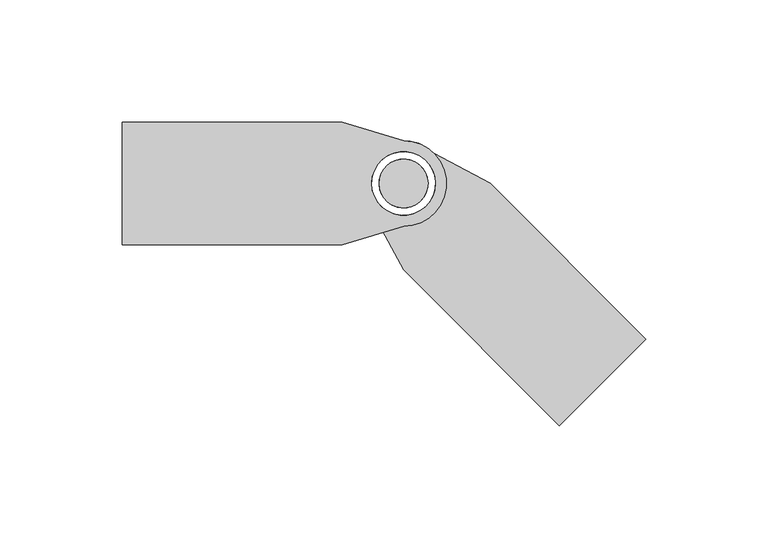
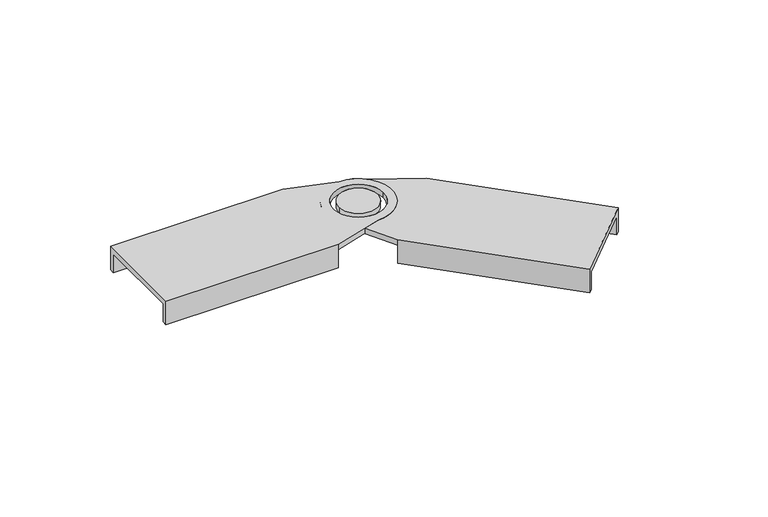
"""IFC4 building model written with IfcOpenShell, lengths in millimetres: cable carrier fitting geometry, BAKS_LD_BEND_Articulated connector_LG : LGT_H45."""

from ifc_helpers import new_model, si_unit, frame, origin, place, context, project, spatial, polyline, circle_curve, source, transform, mapped, element, save
from ifc_brep_helpers import plane_surface, cylinder_surface, revolved_surface, advanced_brep


def cable_carrier_fitting_b11fac2c(model_context):
    return source(origin(), model_context, "Body", "AdvancedBrep", [
        advanced_brep(
        [(-115.0, -25.0, 3.0), (-25.0, -25.0, 3.0), (0.0, -17.5, 3.0), (0.0, 17.5, 3.0), (-25.0, 25.0, 3.0), (-115.0, 25.0, 3.0), (13.0, 0.0, 3.0), (-13.0, 0.0, 3.0), (-25.0, 25.0, 0.0), (0.0, 17.5, 0.0), (0.0, -17.5, 0.0), (-25.0, -25.0, 0.0), (-25.0, -22.5, 0.0), (-115.0, -22.5, 0.0), (-115.0, 22.5, 0.0), (-25.0, 22.5, 0.0), (-13.0, 0.0, 0.0), (13.0, 0.0, 0.0), (-115.0, -25.0, -10.0), (-25.0, -25.0, -10.0), (-25.0, 25.0, -10.0), (-115.0, 25.0, -10.0), (-115.0, 22.5, -10.0), (-115.0, -22.5, -10.0), (-25.0, 22.5, -10.0), (-25.0, -22.5, -10.0)],
        [
            (0, 1),
            (1, 2),
            (2, 3, circle_curve(frame((0.0, 0.0, 3.0), z_axis=(0.0, 0.0, 1.0), x_axis=(-1.0, 0.0, 0.0)), 17.5)),
            (3, 4),
            (4, 5),
            (5, 0),
            (6, 7, circle_curve(frame((0.0, 0.0, 3.0), z_axis=(0.0, 0.0, -1.0), x_axis=(-1.0, 0.0, 0.0)), 13.0)),
            (7, 6, circle_curve(frame((0.0, 0.0, 3.0), z_axis=(0.0, 0.0, -1.0), x_axis=(-1.0, 0.0, 0.0)), 13.0)),
            (8, 9),
            (9, 10, circle_curve(frame((0.0, 0.0, 0.0), z_axis=(0.0, 0.0, -1.0), x_axis=(-1.0, 0.0, 0.0)), 17.5)),
            (10, 11),
            (11, 12),
            (12, 13),
            (13, 14),
            (14, 15),
            (15, 8),
            (16, 17, circle_curve(frame((0.0, 0.0, 0.0), z_axis=(0.0, 0.0, 1.0), x_axis=(-1.0, 0.0, 0.0)), 13.0)),
            (17, 16, circle_curve(frame((0.0, 0.0, 0.0), z_axis=(0.0, 0.0, 1.0), x_axis=(-1.0, 0.0, 0.0)), 13.0)),
            (0, 18),
            (18, 19),
            (19, 11),
            (11, 1),
            (4, 8),
            (8, 20),
            (20, 21),
            (21, 5),
            (21, 22),
            (22, 14),
            (13, 23),
            (23, 18),
            (6, 17),
            (16, 7),
            (10, 2),
            (9, 3),
            (20, 24),
            (24, 22),
            (24, 15),
            (23, 25),
            (25, 19),
            (25, 12),
        ],
        [
            plane_surface(frame((-25.0, -25.0, 3.0), z_axis=(0.0, 0.0, 1.0), x_axis=(1.0, 0.0, 0.0))),
            plane_surface(frame((-25.0, -25.0, 0.0), z_axis=(0.0, 0.0, -1.0), x_axis=(-1.0, 0.0, 0.0))),
            plane_surface(frame((-115.0, -25.0, 3.0), z_axis=(0.0, -1.0, 0.0), x_axis=(0.0, 0.0, -1.0))),
            plane_surface(frame((-25.0, 25.0, 3.0), z_axis=(0.0, 1.0, 0.0), x_axis=(0.0, 0.0, -1.0))),
            plane_surface(frame((-115.0, 25.0, 3.0), z_axis=(-1.0, 0.0, 0.0), x_axis=(0.0, 0.0, -1.0))),
            revolved_surface(polyline([(-13.0, 0.0, 3.0), (-13.0, 0.0, 0.0)]), (0.0, 0.0, 0.0), (0.0, 0.0, 1.0)),
            plane_surface(frame((-25.0, -25.0, 3.0), z_axis=(0.28734788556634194, -0.9578262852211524, 0.0), x_axis=(0.0, 0.0, -1.0))),
            cylinder_surface(frame((0.0, 0.0, 0.0), z_axis=(0.0, 0.0, 1.0), x_axis=(-1.0, 0.0, 0.0)), 17.5),
            plane_surface(frame((0.0, 17.5, 3.0), z_axis=(0.2873478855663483, 0.9578262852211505, 0.0), x_axis=(0.0, 0.0, -1.0))),
            plane_surface(frame((-25.0, 22.5, -10.0), z_axis=(0.0, 0.0, -1.0), x_axis=(-1.0, 0.0, 0.0))),
            plane_surface(frame((-115.0, 22.5, 0.0), z_axis=(0.0, -1.0, 0.0), x_axis=(0.0, 0.0, -1.0))),
            plane_surface(frame((-25.0, 22.5, 0.0), z_axis=(1.0, 0.0, 0.0), x_axis=(0.0, 0.0, -1.0))),
            plane_surface(frame((-25.0, -25.0, -10.0), z_axis=(0.0, 0.0, -1.0), x_axis=(-1.0, 0.0, 0.0))),
            plane_surface(frame((-25.0, -25.0, 0.0), z_axis=(1.0, 0.0, 0.0), x_axis=(0.0, 0.0, -1.0))),
            plane_surface(frame((-25.0, -22.5, 0.0), z_axis=(0.0, 1.0, 0.0), x_axis=(0.0, 0.0, -1.0))),
        ],
        [
            (0, [[1, 2, 3, 4, 5, 6], [7, 8]]),
            (1, [[9, 10, 11, 12, 13, 14, 15, 16], [17, 18]]),
            (2, [[-1, 19, 20, 21, 22]]),
            (3, [[-5, 23, 24, 25, 26]]),
            (4, [[-19, -6, -26, 27, 28, -14, 29, 30]]),
            (5, [[31, -17, 32, -7]]),
            (5, [[-31, -8, -32, -18]]),
            (6, [[-2, -22, -11, 33]]),
            (7, [[-3, -33, -10, 34]]),
            (8, [[-4, -34, -9, -23]]),
            (9, [[-27, -25, 35, 36]]),
            (10, [[-36, 37, -15, -28]]),
            (11, [[-35, -24, -16, -37]]),
            (12, [[-30, 38, 39, -20]]),
            (13, [[-39, 40, -12, -21]]),
            (14, [[-38, -29, -13, -40]]),
        ],
    ),
        advanced_brep(
        [(10.0, 0.0, 3.0), (-10.0, 0.0, 3.0), (-10.0, 0.0, 0.0), (10.0, 0.0, 0.0)],
        [
            (0, 1, circle_curve(frame((0.0, 0.0, 3.0), z_axis=(0.0, 0.0, 1.0), x_axis=(-1.0, 0.0, 0.0)), 10.0)),
            (1, 0, circle_curve(frame((0.0, 0.0, 3.0), z_axis=(0.0, 0.0, 1.0), x_axis=(-1.0, 0.0, 0.0)), 10.0)),
            (2, 3, circle_curve(frame((0.0, 0.0, 0.0), z_axis=(0.0, 0.0, -1.0), x_axis=(-1.0, 0.0, 0.0)), 10.0)),
            (3, 2, circle_curve(frame((0.0, 0.0, 0.0), z_axis=(0.0, 0.0, -1.0), x_axis=(-1.0, 0.0, 0.0)), 10.0)),
            (0, 3),
            (2, 1),
        ],
        [
            plane_surface(frame((-25.0, -25.0, 3.0), z_axis=(0.0, 0.0, 1.0), x_axis=(1.0, 0.0, 0.0))),
            plane_surface(frame((-25.0, -25.0, 0.0), z_axis=(0.0, 0.0, -1.0), x_axis=(-1.0, 0.0, 0.0))),
            cylinder_surface(frame((0.0, 0.0, 0.0), z_axis=(0.0, 0.0, -1.0), x_axis=(-1.0, 0.0, 0.0)), 10.0),
        ],
        [
            (0, [[1, 2]]),
            (1, [[3, 4]]),
            (2, [[5, -3, 6, -1]]),
            (2, [[-5, -2, -6, -4]]),
        ],
    ),
        advanced_brep(
        [(63.6396103, -98.9949494, 3.0), (98.9949494, -63.6396103, 3.0), (35.3553391, 0.0, 3.0), (12.3743687, 12.3743687, 3.0), (-12.3743687, -12.3743687, 3.0), (0.0, -35.3553391, 3.0), (-9.1923882, 9.1923882, 3.0), (9.1923882, -9.1923882, 3.0), (35.3553391, 0.0, 0.0), (33.5875721, -1.767767, 0.0), (97.2271824, -65.4073773, 0.0), (65.4073773, -97.2271824, 0.0), (1.767767, -33.5875721, 0.0), (0.0, -35.3553391, 0.0), (-12.3743687, -12.3743687, 0.0), (12.3743687, 12.3743687, 0.0), (9.1923882, -9.1923882, 0.0), (-9.1923882, 9.1923882, 0.0), (0.0, -35.3553391, -10.0), (63.6396103, -98.9949494, -10.0), (98.9949494, -63.6396103, -10.0), (35.3553391, 0.0, -10.0), (65.4073773, -97.2271824, -10.0), (97.2271824, -65.4073773, -10.0), (33.5875721, -1.767767, -10.0), (1.767767, -33.5875721, -10.0)],
        [
            (0, 1),
            (1, 2),
            (2, 3),
            (3, 4, circle_curve(frame((0.0, 0.0, 3.0), z_axis=(0.0, 0.0, 1.0), x_axis=(0.7071067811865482, -0.7071067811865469, 0.0)), 17.5)),
            (4, 5),
            (5, 0),
            (6, 7, circle_curve(frame((0.0, 0.0, 3.0), z_axis=(0.0, 0.0, -1.0), x_axis=(0.7071067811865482, -0.7071067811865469, 0.0)), 13.0)),
            (7, 6, circle_curve(frame((0.0, 0.0, 3.0), z_axis=(0.0, 0.0, -1.0), x_axis=(0.7071067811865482, -0.7071067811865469, 0.0)), 13.0)),
            (8, 9),
            (9, 10),
            (10, 11),
            (11, 12),
            (12, 13),
            (13, 14),
            (14, 15, circle_curve(frame((0.0, 0.0, 0.0), z_axis=(0.0, 0.0, -1.0), x_axis=(0.7071067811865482, -0.7071067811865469, 0.0)), 17.5)),
            (15, 8),
            (16, 17, circle_curve(frame((0.0, 0.0, 0.0), z_axis=(0.0, 0.0, 1.0), x_axis=(0.7071067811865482, -0.7071067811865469, 0.0)), 13.0)),
            (17, 16, circle_curve(frame((0.0, 0.0, 0.0), z_axis=(0.0, 0.0, 1.0), x_axis=(0.7071067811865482, -0.7071067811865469, 0.0)), 13.0)),
            (5, 13),
            (13, 18),
            (18, 19),
            (19, 0),
            (1, 20),
            (20, 21),
            (21, 8),
            (8, 2),
            (19, 22),
            (22, 11),
            (10, 23),
            (23, 20),
            (7, 16),
            (17, 6),
            (4, 14),
            (3, 15),
            (23, 24),
            (24, 21),
            (9, 24),
            (18, 25),
            (25, 22),
            (12, 25),
        ],
        [
            plane_surface(frame((0.0, -35.3553391, 3.0), z_axis=(0.0, 0.0, 1.0), x_axis=(-0.7071067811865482, 0.7071067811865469, 0.0))),
            plane_surface(frame((0.0, -35.3553391, 0.0), z_axis=(0.0, 0.0, -1.0), x_axis=(0.7071067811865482, -0.7071067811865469, 0.0))),
            plane_surface(frame((63.6396103, -98.9949494, 3.0), z_axis=(-0.7071067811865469, -0.7071067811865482, 0.0), x_axis=(0.0, 0.0, -1.0))),
            plane_surface(frame((35.3553391, 0.0, 3.0), z_axis=(0.7071067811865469, 0.7071067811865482, 0.0), x_axis=(0.0, 0.0, -1.0))),
            plane_surface(frame((98.9949494, -63.6396103, 3.0), z_axis=(0.7071067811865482, -0.7071067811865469, 0.0), x_axis=(0.0, 0.0, -1.0))),
            revolved_surface(polyline([(9.192388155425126, -9.19238815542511, 3.0), (9.192388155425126, -9.19238815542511, 0.0)]), (0.0, 0.0, 0.0), (0.0, 0.0, 1.0)),
            plane_surface(frame((0.0, -35.3553391, 3.0), z_axis=(-0.8804710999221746, -0.4740998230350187, 0.0), x_axis=(0.0, 0.0, -1.0))),
            cylinder_surface(frame((0.0, 0.0, 0.0), z_axis=(0.0, 0.0, 1.0), x_axis=(0.7071067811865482, -0.7071067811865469, 0.0)), 17.5),
            plane_surface(frame((12.3743687, 12.3743687, 3.0), z_axis=(0.4740998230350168, 0.8804710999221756, 0.0), x_axis=(0.0, 0.0, -1.0))),
            plane_surface(frame((33.5875721, -1.767767, -10.0), z_axis=(0.0, 0.0, -1.0), x_axis=(0.7071067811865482, -0.7071067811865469, 0.0))),
            plane_surface(frame((97.2271824, -65.4073773, 0.0), z_axis=(-0.7071067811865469, -0.7071067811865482, 0.0), x_axis=(0.0, 0.0, -1.0))),
            plane_surface(frame((33.5875721, -1.767767, 0.0), z_axis=(-0.7071067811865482, 0.7071067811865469, 0.0), x_axis=(0.0, 0.0, -1.0))),
            plane_surface(frame((0.0, -35.3553391, -10.0), z_axis=(0.0, 0.0, -1.0), x_axis=(0.7071067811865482, -0.7071067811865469, 0.0))),
            plane_surface(frame((0.0, -35.3553391, 0.0), z_axis=(-0.7071067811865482, 0.7071067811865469, 0.0), x_axis=(0.0, 0.0, -1.0))),
            plane_surface(frame((1.767767, -33.5875721, 0.0), z_axis=(0.7071067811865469, 0.7071067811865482, 0.0), x_axis=(0.0, 0.0, -1.0))),
        ],
        [
            (0, [[1, 2, 3, 4, 5, 6], [7, 8]]),
            (1, [[9, 10, 11, 12, 13, 14, 15, 16], [17, 18]]),
            (2, [[19, 20, 21, 22, -6]]),
            (3, [[23, 24, 25, 26, -2]]),
            (4, [[27, 28, -11, 29, 30, -23, -1, -22]]),
            (5, [[-8, 31, -18, 32]]),
            (5, [[-17, -31, -7, -32]]),
            (6, [[33, -14, -19, -5]]),
            (7, [[34, -15, -33, -4]]),
            (8, [[-26, -16, -34, -3]]),
            (9, [[35, 36, -24, -30]]),
            (10, [[-29, -10, 37, -35]]),
            (11, [[-37, -9, -25, -36]]),
            (12, [[-21, 38, 39, -27]]),
            (13, [[-20, -13, 40, -38]]),
            (14, [[-40, -12, -28, -39]]),
        ],
    ),
        advanced_brep(
        [(-7.0710678, 7.0710678, 3.0), (7.0710678, -7.0710678, 3.0), (7.0710678, -7.0710678, 0.0), (-7.0710678, 7.0710678, 0.0)],
        [
            (0, 1, circle_curve(frame((0.0, 0.0, 3.0), z_axis=(0.0, 0.0, 1.0), x_axis=(0.7071067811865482, -0.7071067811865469, 0.0)), 10.0)),
            (1, 0, circle_curve(frame((0.0, 0.0, 3.0), z_axis=(0.0, 0.0, 1.0), x_axis=(0.7071067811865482, -0.7071067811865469, 0.0)), 10.0)),
            (2, 3, circle_curve(frame((0.0, 0.0, 0.0), z_axis=(0.0, 0.0, -1.0), x_axis=(0.7071067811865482, -0.7071067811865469, 0.0)), 10.0)),
            (3, 2, circle_curve(frame((0.0, 0.0, 0.0), z_axis=(0.0, 0.0, -1.0), x_axis=(0.7071067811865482, -0.7071067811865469, 0.0)), 10.0)),
            (1, 2),
            (3, 0),
        ],
        [
            plane_surface(frame((0.0, -35.3553391, 3.0), z_axis=(0.0, 0.0, 1.0), x_axis=(-0.7071067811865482, 0.7071067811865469, 0.0))),
            plane_surface(frame((0.0, -35.3553391, 0.0), z_axis=(0.0, 0.0, -1.0), x_axis=(0.7071067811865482, -0.7071067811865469, 0.0))),
            cylinder_surface(frame((0.0, 0.0, 0.0), z_axis=(0.0, 0.0, -1.0), x_axis=(0.7071067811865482, -0.7071067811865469, 0.0)), 10.0),
        ],
        [
            (0, [[1, 2]]),
            (1, [[3, 4]]),
            (2, [[-2, 5, -4, 6]]),
            (2, [[-3, -5, -1, -6]]),
        ],
    ),
    ])


if __name__ == "__main__":
    model = new_model("IFC4")
    model_context = context("Model", 3, world=origin())
    ifc_project = project(units=[si_unit("LENGTHUNIT", "METRE", prefix="MILLI")], contexts=[model_context])
    site = spatial("IfcSite", under=ifc_project)
    building = spatial("IfcBuilding", under=site)
    placement = place(None, origin())
    cable_carrier_fitting_shape = cable_carrier_fitting_b11fac2c(model_context)
    element("IfcCableCarrierFitting", 1, ObjectType="BAKS_LD_BEND_Articulated connector_LG : LGT_H45", at=placement, inside=building, context=model_context, shape_type="MappedRepresentation", body=[
        mapped(cable_carrier_fitting_shape, transform((0.0, 0.0, 0.0), x_axis=(1.0, 0.0, 0.0), y_axis=(0.0, 1.0, 0.0), z_axis=(0.0, 0.0, 1.0))),
    ])
    save(model, "model.ifc")
